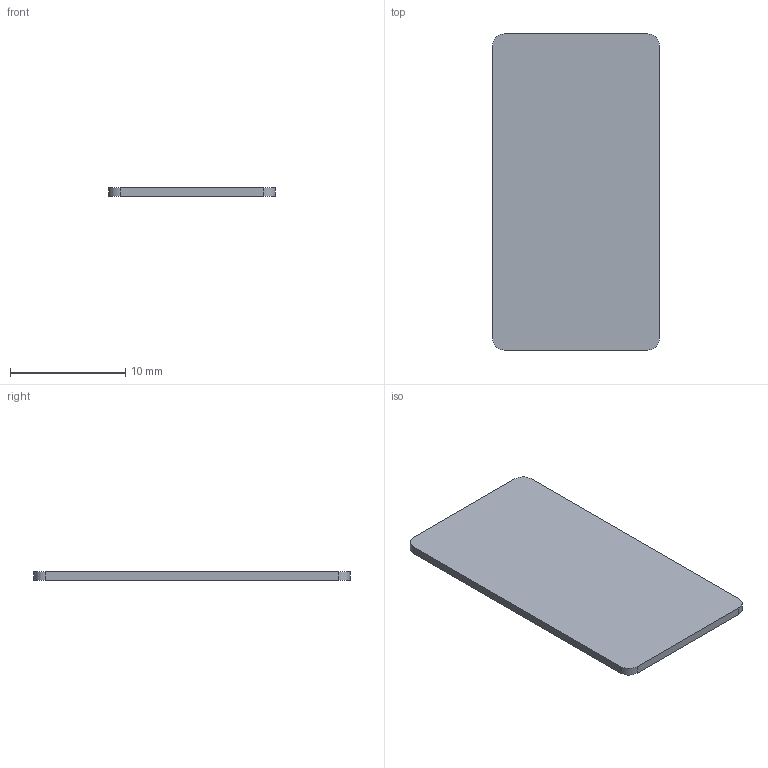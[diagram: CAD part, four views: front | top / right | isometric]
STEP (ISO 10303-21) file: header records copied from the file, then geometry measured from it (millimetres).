
FILE_DESCRIPTION(('Open CASCADE Model'),'2;1');
FILE_NAME('Open CASCADE Shape Model','2026-09-15T13:33:54',('Author'),( 'Open CASCADE'),'Open CASCADE STEP processor 7.7','Open CASCADE 7.7' ,'Unknown');
FILE_SCHEMA(('AUTOMOTIVE_DESIGN { 1 0 10303 214 1 1 1 1 }'));
Length unit declared in the file: millimetre
Products named in the file (1): Open CASCADE STEP translator 7.7 18
Bounding box: 14.5 x 27.5 x 0.7 mm (x, y, z)
Volume: 278.5 mm3; surface area: 853.4 mm2
Topology: 1 solids, 1 shells, 10 faces, 24 edges, 16 vertices
Faces by surface type: plane 6, cylinder 4
Entity records: 630 total; most frequent: CARTESIAN_POINT 123, DIRECTION 98, LINE 56, VECTOR 56, ORIENTED_EDGE 48, PCURVE 48, DEFINITIONAL_REPRESENTATION 48, EDGE_CURVE 24
